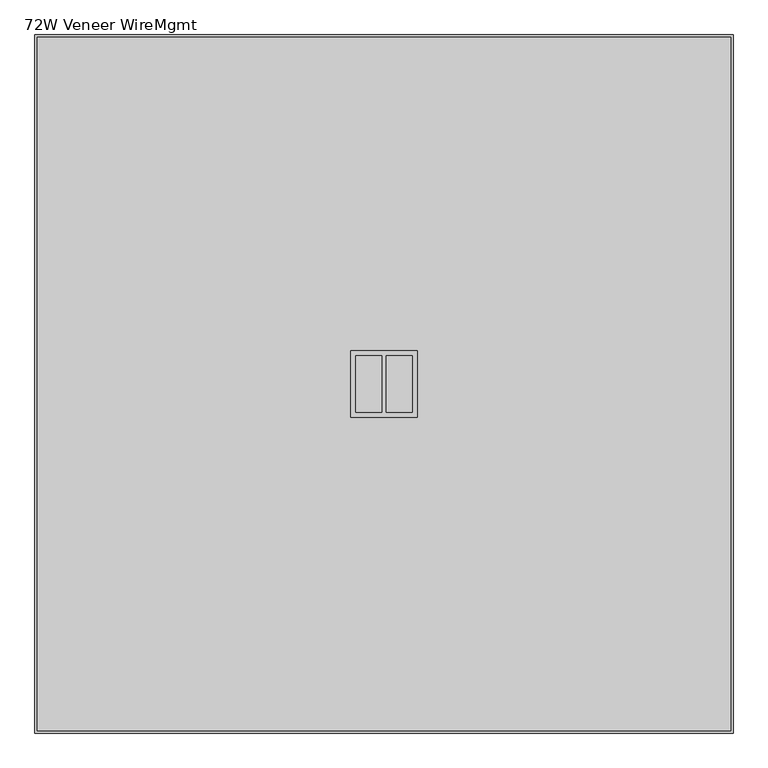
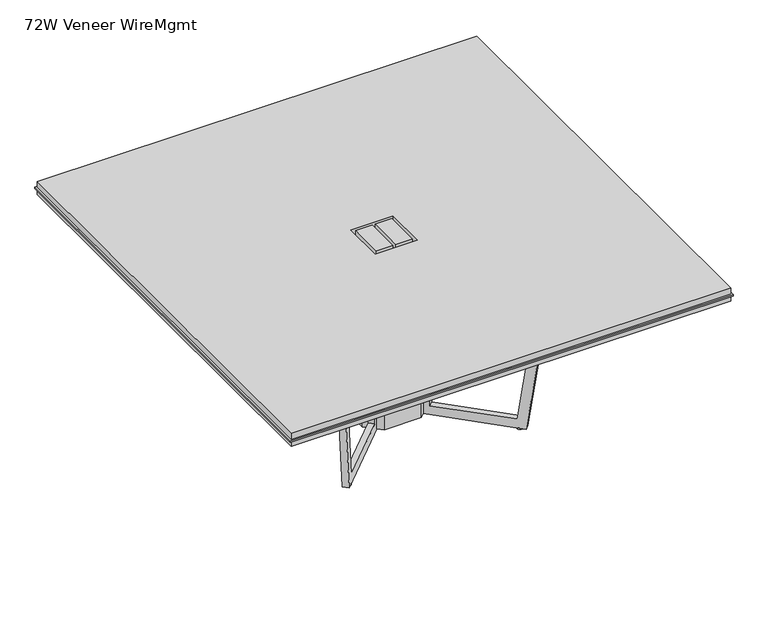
"""IFC4 building model written with IfcOpenShell, lengths in millimetres: furniture geometry, Knoll_Datesweiser_Tables_Meeting_Highline_Square : 72W Veneer WireMgmt."""

from ifc_helpers import new_model, si_unit, point, frame, frame_2d, origin, origin_with_axes, place, context, project, spatial, polyline, circle_curve, trimmed, segment, composite_curve, outline, extrude, faceted_brep, source, transform, mapped, element, save


def furniture_72w_veneer_wiremgmt_dc4085cc(model_context):
    return source(origin(), model_context, "Body", "SolidModel", [
        extrude(outline(polyline([(914.4, 914.4), (914.4, -914.4), (-914.4, -914.4), (-914.4, 914.4), (914.4, 914.4)])), frame((0.0, 0.0, 698.5), z_axis=(0.0, 0.0, 1.0), x_axis=(1.0, 0.0, 0.0)), (0.0, 0.0, 1.0), 25.4),
        extrude(outline(polyline([(914.4, 914.4), (914.4, -914.4), (-914.4, -914.4), (-914.4, 914.4), (914.4, 914.4)]), holes=[polyline([(-87.3125, -87.3125), (87.3125, -87.3125), (87.3125, 87.3125), (-87.3125, 87.3125), (-87.3125, -87.3125)])]), frame((0.0, 0.0, 730.25), z_axis=(0.0, 0.0, 1.0), x_axis=(1.0, 0.0, 0.0)), (0.0, 0.0, 1.0), 25.4),
        extrude(outline(polyline([(6.35, -74.6125), (6.35, 74.6125), (74.6125, 74.6125), (74.6125, -74.6125), (6.35, -74.6125)])), frame((0.0, 0.0, 730.25), z_axis=(0.0, 0.0, 1.0), x_axis=(1.0, 0.0, 0.0)), (0.0, 0.0, 1.0), 25.4),
        extrude(outline(polyline([(-6.35, 74.6125), (-6.35, -74.6125), (-74.6125, -74.6125), (-74.6125, 74.6125), (-6.35, 74.6125)])), frame((0.0, 0.0, 730.25), z_axis=(0.0, 0.0, 1.0), x_axis=(1.0, 0.0, 0.0)), (0.0, 0.0, 1.0), 25.4),
        extrude(outline(polyline([(920.75, 920.75), (920.75, -920.75), (-920.75, -920.75), (-920.75, 920.75), (920.75, 920.75)]), holes=[polyline([(-87.3125, -87.3125), (87.3125, -87.3125), (87.3125, 87.3125), (-87.3125, 87.3125), (-87.3125, -87.3125)])]), frame((0.0, 0.0, 723.9), z_axis=(0.0, 0.0, 1.0), x_axis=(1.0, 0.0, 0.0)), (0.0, 0.0, 1.0), 6.35),
        extrude(outline(polyline([(6.35, -74.6125), (6.35, 74.6125), (74.6125, 74.6125), (74.6125, -74.6125), (6.35, -74.6125)])), frame((0.0, 0.0, 723.9), z_axis=(0.0, 0.0, 1.0), x_axis=(1.0, 0.0, 0.0)), (0.0, 0.0, 1.0), 6.35),
        extrude(outline(polyline([(-6.35, 74.6125), (-6.35, -74.6125), (-74.6125, -74.6125), (-74.6125, 74.6125), (-6.35, 74.6125)])), frame((0.0, 0.0, 723.9), z_axis=(0.0, 0.0, 1.0), x_axis=(1.0, 0.0, 0.0)), (0.0, 0.0, 1.0), 6.35),
        extrude(outline(composite_curve([segment(trimmed(circle_curve(frame_2d((-357.9481367, -357.9481367)), 12.7), [point((-345.2481367, -357.9481367))], [point((-370.6481367, -357.9481367))], False, "CARTESIAN"), True, "CONTINUOUS"), segment(trimmed(circle_curve(frame_2d((-357.9481367, -357.9481367)), 12.7), [point((-370.6481367, -357.9481367))], [point((-345.2481367, -357.9481367))], False, "CARTESIAN"), True, "CONTINUOUS")], self_intersect=False)), origin_with_axes(), (0.0, 0.0, 1.0), 5.9867797),
        extrude(outline(composite_curve([segment(trimmed(circle_curve(frame_2d((-357.9481367, 357.9481367)), 12.7), [point((-345.2481367, 357.9481367))], [point((-370.6481367, 357.9481367))], False, "CARTESIAN"), True, "CONTINUOUS"), segment(trimmed(circle_curve(frame_2d((-357.9481367, 357.9481367)), 12.7), [point((-370.6481367, 357.9481367))], [point((-345.2481367, 357.9481367))], False, "CARTESIAN"), True, "CONTINUOUS")], self_intersect=False)), origin_with_axes(), (0.0, 0.0, 1.0), 5.9867797),
        extrude(outline(composite_curve([segment(trimmed(circle_curve(frame_2d((357.9481367, -357.9481367)), 12.7), [point((370.6481367, -357.9481367))], [point((345.2481367, -357.9481367))], False, "CARTESIAN"), True, "CONTINUOUS"), segment(trimmed(circle_curve(frame_2d((357.9481367, -357.9481367)), 12.7), [point((345.2481367, -357.9481367))], [point((370.6481367, -357.9481367))], False, "CARTESIAN"), True, "CONTINUOUS")], self_intersect=False)), origin_with_axes(), (0.0, 0.0, 1.0), 5.9867797),
        extrude(outline(composite_curve([segment(trimmed(circle_curve(frame_2d((357.9481367, 357.9481367)), 12.7), [point((370.6481367, 357.9481367))], [point((345.2481367, 357.9481367))], False, "CARTESIAN"), True, "CONTINUOUS"), segment(trimmed(circle_curve(frame_2d((357.9481367, 357.9481367)), 12.7), [point((345.2481367, 357.9481367))], [point((370.6481367, 357.9481367))], False, "CARTESIAN"), True, "CONTINUOUS")], self_intersect=False)), origin_with_axes(), (0.0, 0.0, 1.0), 5.9867797),
        faceted_brep([(-105.5180417, 87.5575295, 698.5000242), (-132.4542329, 114.4937206, 698.5000242), (-132.4542329, 114.4937206, 44.0867803), (-362.731756, 344.7712438, 44.0867803), (-427.7656237, 409.8051114, 698.5000242), (-454.9711667, 437.0106545, 698.5000242), (-386.1246404, 368.1641282, 5.7213276), (-115.3405838, 97.3800716, 6.2173274), (-115.3405838, 97.3800716, 679.2551774), (-105.5179146, 87.5574023, 679.2551774), (368.1641282, -386.1246404, 5.7213276), (437.0106545, -454.9711667, 698.5000242), (409.8051114, -427.7656237, 698.5000242), (344.7712438, -362.731756, 44.0867803), (114.4937206, -132.4542329, 44.0867803), (114.4937206, -132.4542329, 698.5000242), (87.5575295, -105.5180417, 698.5000242), (87.5574023, -105.5179146, 679.2551774), (97.3800716, -115.3405838, 679.2551774), (97.3800716, -115.3405838, 6.2173274), (-368.1641282, 386.1246404, 5.7213276), (-437.0106545, 454.9711667, 698.5000242), (-409.8051114, 427.7656237, 698.5000242), (-344.7712438, 362.731756, 44.0867803), (-114.4937206, 132.4542329, 44.0867803), (-114.4937206, 132.4542329, 698.5000242), (-87.5575295, 105.5180417, 698.5000242), (-87.5574023, 105.5179146, 679.2551774), (-97.3800759, 115.3405882, 679.2551774), (-97.3800759, 115.3405882, 6.2173274), (105.5180417, -87.5575295, 698.5000242), (132.4542329, -114.4937206, 698.5000242), (132.4542329, -114.4937206, 44.0867803), (362.731756, -344.7712438, 44.0867803), (427.7656237, -409.8051114, 698.5000242), (454.9711667, -437.0106545, 698.5000242), (386.1246404, -368.1641282, 5.7213276), (115.3405882, -97.3800759, 6.2173274), (115.3405882, -97.3800759, 679.2551774), (105.5179146, -87.5574023, 679.2551774), (-134.8689207, 77.8517251, 679.2551774), (-134.8689207, -77.8517528, 679.2551774), (-77.8517251, -134.8689207, 679.2551774), (77.8517251, -134.8689207, 679.2551774), (134.8689207, -77.8517528, 679.2551774), (134.8689207, 77.8517251, 679.2551774), (77.8517528, 134.8689207, 679.2551774), (-77.8517528, 134.8689207, 679.2551774), (-134.8689207, 77.8517251, 5.8810183), (-77.8517528, 134.8689207, 5.8810183), (77.8517528, 134.8689207, 5.8810183), (134.8689207, 77.8517251, 5.8810183), (134.8689207, -77.8517528, 5.8810183), (77.8517251, -134.8689207, 5.8810183), (-77.8517251, -134.8689207, 5.8810183), (-134.8689207, -77.8517528, 5.8810183)], [[[0, 1, 2, 3, 4, 5, 6, 7, 8, 9]], [[10, 11, 12, 13, 14, 15, 16, 17, 18, 19]], [[20, 21, 22, 23, 24, 25, 26, 27, 28, 29]], [[30, 31, 32, 33, 34, 35, 36, 37, 38, 39]], [[3, 2, 24, 23]], [[4, 3, 23, 22]], [[5, 4, 22, 21]], [[6, 5, 21, 20]], [[6, 20, 29, 7]], [[26, 0, 9, 27]], [[1, 0, 26, 25]], [[2, 1, 25, 24]], [[36, 10, 19, 37]], [[11, 10, 36, 35]], [[12, 11, 35, 34]], [[13, 12, 34, 33]], [[14, 13, 33, 32]], [[15, 14, 32, 31]], [[16, 15, 31, 30]], [[16, 30, 39, 17]], [[40, 41, 42, 43, 18, 17, 39, 38, 44, 45, 46, 47, 28, 27, 9, 8]], [[48, 49, 50, 51, 52, 53, 54, 55]], [[41, 40, 48, 55]], [[42, 41, 55, 54]], [[43, 42, 54, 53]], [[53, 52, 44, 38, 37, 19, 18, 43]], [[45, 44, 52, 51]], [[46, 45, 51, 50]], [[47, 46, 50, 49]], [[49, 48, 40, 8, 7, 29, 28, 47]]]),
        extrude(outline(polyline([(687.3294598, 0.0), (687.8397529, -396.8441293), (-4.9398532, -494.2013488), (-4.9394938, -455.7269008), (649.4746093, -363.7612365), (649.4776515, -38.0996402), (-4.9355924, -38.0935268), (-4.9352365, 0.0), (687.3294598, 0.0)])), frame((105.5180091, 87.5574969, 693.5647877), z_axis=(-0.7071067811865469, 0.7071067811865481, 0.0), x_axis=(-6.605612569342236e-06, -6.605612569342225e-06, -0.9999999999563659)), (0.0, 0.0, 1.0), 25.4),
        extrude(outline(polyline([(687.3320105, 273.0371574), (-4.9326857, 273.0500913), (-4.9323299, 311.1436182), (649.480914, 311.1375048), (649.4839562, 636.7991012), (-4.9284285, 728.7769922), (-4.928069, 767.2514401), (687.849718, 669.8812771), (687.3320105, 273.0371574)])), frame((105.5180091, 87.5574969, 693.5647877), z_axis=(-0.7071067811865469, 0.7071067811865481, 0.0), x_axis=(-6.605612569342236e-06, -6.605612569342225e-06, -0.9999999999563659)), (0.0, 0.0, 1.0), 25.4),
    ])


if __name__ == "__main__":
    model = new_model("IFC4")
    model_context = context("Model", 3, world=origin())
    ifc_project = project(units=[si_unit("LENGTHUNIT", "METRE", prefix="MILLI")], contexts=[model_context])
    site = spatial("IfcSite", under=ifc_project)
    building = spatial("IfcBuilding", under=site)
    placement = place(None, origin())
    furniture_72w_veneer_wiremgmt_shape = furniture_72w_veneer_wiremgmt_dc4085cc(model_context)
    element("IfcFurniture", 1, ObjectType="Knoll_Datesweiser_Tables_Meeting_Highline_Square : 72W Veneer WireMgmt", at=placement, inside=building, context=model_context, shape_type="MappedRepresentation", body=[
        mapped(furniture_72w_veneer_wiremgmt_shape, transform((0.0, 0.0, 0.0), x_axis=(1.0, 0.0, 0.0), y_axis=(0.0, 1.0, 0.0), z_axis=(0.0, 0.0, 1.0))),
    ])
    save(model, "model.ifc")
